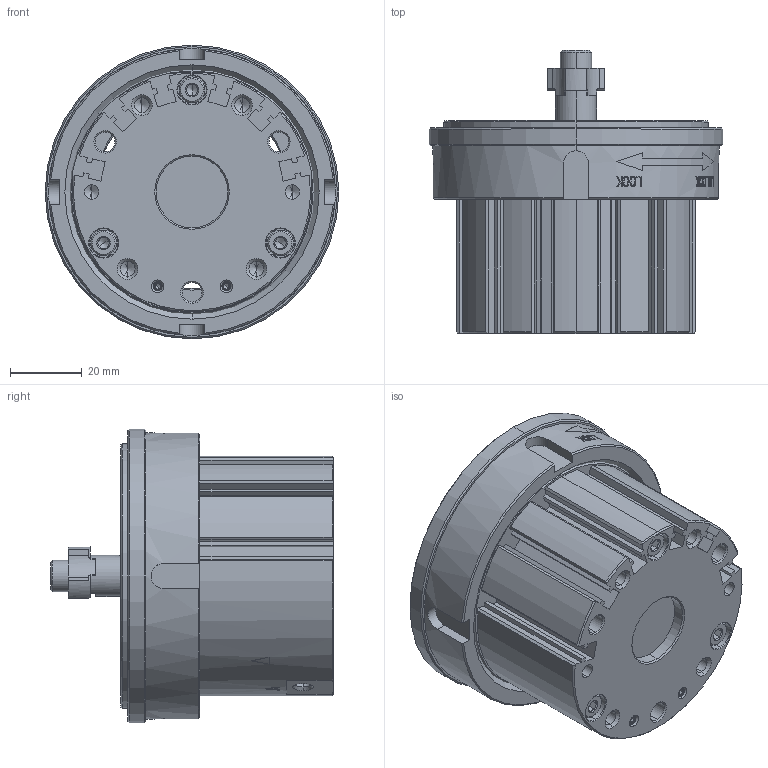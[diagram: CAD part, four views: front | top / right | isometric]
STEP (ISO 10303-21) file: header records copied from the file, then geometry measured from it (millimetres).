
FILE_DESCRIPTION (( 'STEP AP214' ), '1' );
FILE_NAME ('HP-QGBL06-61G856541-20241125-UC.STEP', '2024-11-24T23:51:01', ( '' ), ( '' ), 'SwSTEP 2.0', 'SolidWorks 2022', '' );
FILE_SCHEMA (( 'AUTOMOTIVE_DESIGN' ));
Length unit declared in the file: millimetre
Products named in the file (12): REAR BODY^HP-QGBL06; LOCK NUT^HP-QGBL06; BOLT2^HP-QGBL06; CYLINDER COVER^HP-QGBL06; CLAMP RING^HP-QGBL06; PISTON HEAD^HP-QGBL06; S-TOME^HP-QGBL06; HP-QGBL06-61G856541-20241125-UC; BOLT1^HP-QGBL06; PRESS BALL PLUNGER^HP-QGBL06; PISTON^HP-QGBL06_開端; KNOCK PIN^HP-QGBL06
Assembly tree (16 placements, depth 2):
  HP-QGBL06-61G856541-20241125-UC
    REAR BODY^HP-QGBL06
    PISTON HEAD^HP-QGBL06
    PISTON^HP-QGBL06_開端
    CYLINDER COVER^HP-QGBL06
    CLAMP RING^HP-QGBL06
    LOCK NUT^HP-QGBL06
    BOLT1^HP-QGBL06  x3
    BOLT2^HP-QGBL06
    S-TOME^HP-QGBL06  x2
    KNOCK PIN^HP-QGBL06
    PRESS BALL PLUNGER^HP-QGBL06  x3
Bounding box: 82 x 79 x 82 mm (x, y, z)
Volume: 196034.3 mm3; surface area: 65942 mm2
Topology: 16 solids, 16 shells, 1853 faces, 5009 edges, 3260 vertices
Faces by surface type: bspline 989, plane 405, cylinder 230, cone 205, torus 16, sphere 8
Entity records: 85145 total; most frequent: CARTESIAN_POINT 48206, ORIENTED_EDGE 9594, EDGE_CURVE 4797, DIRECTION 3934, B_SPLINE_CURVE_WITH_KNOTS 3155, VERTEX_POINT 3148, EDGE_LOOP 1903, ADVANCED_FACE 1774
